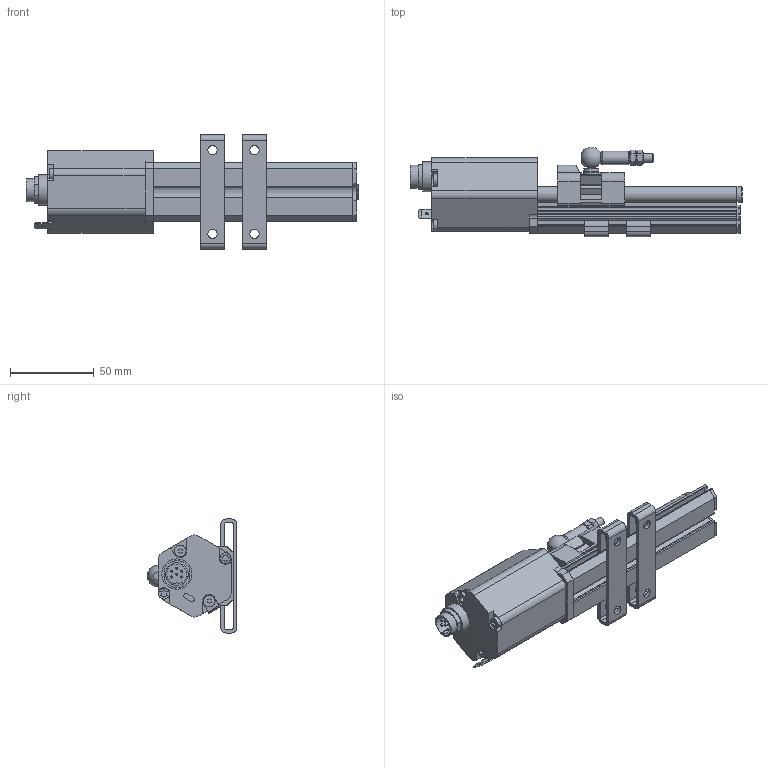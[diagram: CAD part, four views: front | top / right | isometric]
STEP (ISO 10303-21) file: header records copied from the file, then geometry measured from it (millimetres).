
FILE_DESCRIPTION( ( 'STEP AP203' ), '1' );
FILE_NAME( 'p:/temp/worker_45/temp/exporttempdir_4472_304_KxmlX/format_0/RP S 0025M D60 1 C101111 Z02(M,S,0,C101,2,1,,,1,1,,,,).stp', '2021-08-26T11:45:33', ( 'License CC BY-ND 4.0' ), ( 'CADENAS' ), ' ', 'PARTsolutions', ' ' );
FILE_SCHEMA( ( 'CONFIG_CONTROL_DESIGN' ) );
Length unit declared in the file: millimetre
Products named in the file (8): RP S 0025M D60 1 C101111 Z02(M,S,0,C101,2,1,,,1,1,,,,); _MTS RP D60 CANbus; _MTS R-Serie Profile 0025M  66; _252182; _252182_S; _400802; _RP cover; _RP plug
Assembly tree (8 placements, depth 2):
  RP S 0025M D60 1 C101111 Z02(M,S,0,C101,2,1,,,1,1,,,,)
    _MTS RP D60 CANbus
    _MTS R-Serie Profile 0025M  66
    _252182
    _252182_S
    _400802  x2
    _RP cover
    _RP plug
Bounding box: 198 x 53.47 x 68 mm (x, y, z)
Volume: 182921.3 mm3; surface area: 52280.4 mm2
Topology: 8 solids, 8 shells, 525 faces, 1414 edges, 935 vertices
Faces by surface type: plane 322, cylinder 179, cone 19, torus 4, sphere 1
Full cylindrical faces by diameter (mm): 1.2 x6, 1.5 x2, 1.7 x1, 3.8 x3, 4.134 x2, 5 x2, 5.5 x8, 6.5 x2, 7 x2, 7.25 x1, 8 x1, 9 x1, 9.3 x1, 13.8 x1, 18 x1
Entity records: 15696 total; most frequent: CARTESIAN_POINT 2901, DIRECTION 2623, ORIENTED_EDGE 2550, EDGE_CURVE 1275, LINE 885, VECTOR 885, VERTEX_POINT 875, AXIS2_PLACEMENT_3D 869
